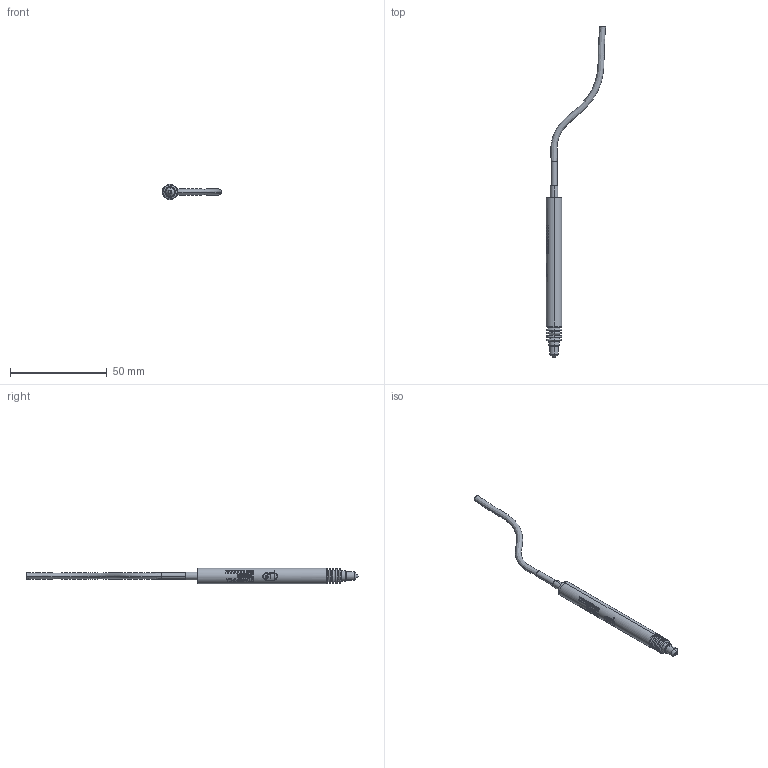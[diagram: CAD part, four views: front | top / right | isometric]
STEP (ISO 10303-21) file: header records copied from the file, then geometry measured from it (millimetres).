
FILE_DESCRIPTION((''),'2;1');
FILE_NAME('0000029013_SW0001','2012-10-10T',('11000205'),(''),'PRO/ENGINEER BY PARAMETRIC TECHNOLOGY CORPORATION, 2011180','PRO/ENGINEER BY PARAMETRIC TECHNOLOGY CORPORATION, 2011180','');
FILE_SCHEMA(('AUTOMOTIVE_DESIGN { 1 0 10303 214 1 1 1 1 }'));
Length unit declared in the file: millimetre
Products named in the file (1): 0000029013_SW0001
Bounding box: 30.59 x 171.33 x 8 mm (x, y, z)
Volume: 4488 mm3; surface area: 3264.3 mm2
Topology: 2 solids, 5 shells, 916 faces, 2533 edges, 1668 vertices
Faces by surface type: plane 785, cylinder 67, cone 30, torus 24, extrusion 6, sphere 2, bspline 2
Entity records: 37606 total; most frequent: CARTESIAN_POINT 9228, ORIENTED_EDGE 5058, DIRECTION 3534, EDGE_CURVE 2529, VERTEX_POINT 1668, AXIS2_PLACEMENT_3D 1212, B_SPLINE_CURVE_WITH_KNOTS 1127, VECTOR 1110
